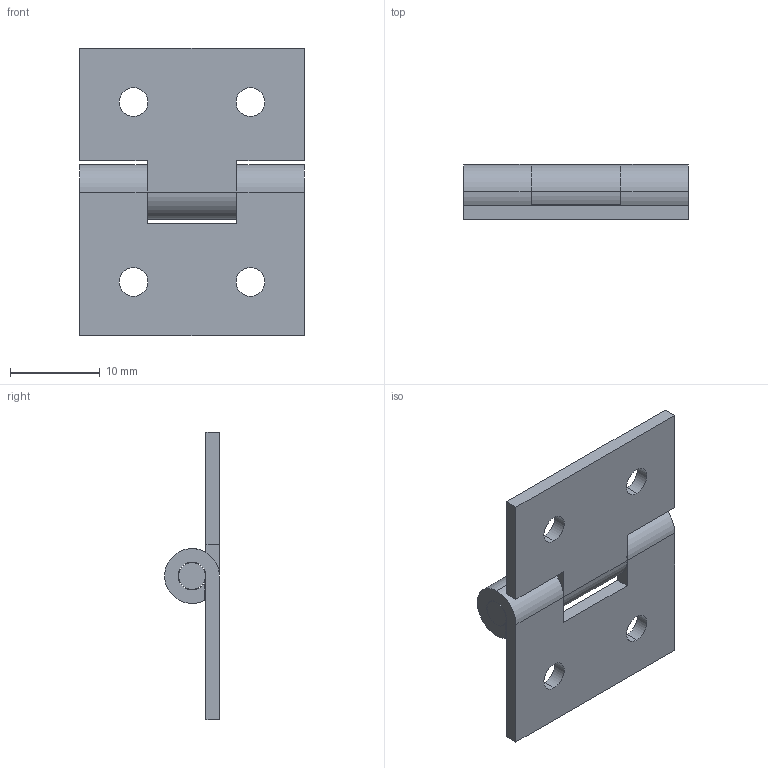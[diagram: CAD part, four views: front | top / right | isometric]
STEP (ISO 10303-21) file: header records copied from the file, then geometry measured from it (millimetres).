
FILE_DESCRIPTION (( 'STEP AP203' ), '1' );
FILE_NAME ('B18-18780.STEP', '2024-10-24T09:16:28', ( '' ), ( '' ), 'SwSTEP 2.0', 'SolidWorks 2021', '' );
FILE_SCHEMA (( 'CONFIG_CONTROL_DESIGN' ));
Length unit declared in the file: millimetre
Products named in the file (4): B18-107810-2; B18-18780; B18-107810-1; B18-3-25
Assembly tree (3 placements, depth 2):
  B18-18780
    B18-3-25
    B18-107810-1
    B18-107810-2
Bounding box: 25 x 6.1 x 32 mm (x, y, z)
Volume: 1664.4 mm3; surface area: 2684.2 mm2
Topology: 3 solids, 3 shells, 50 faces, 132 edges, 88 vertices
Faces by surface type: cylinder 28, plane 22
Entity records: 2002 total; most frequent: DIRECTION 300, CARTESIAN_POINT 276, ORIENTED_EDGE 264, EDGE_CURVE 132, AXIS2_PLACEMENT_3D 112, VERTEX_POINT 88, VECTOR 76, LINE 76
